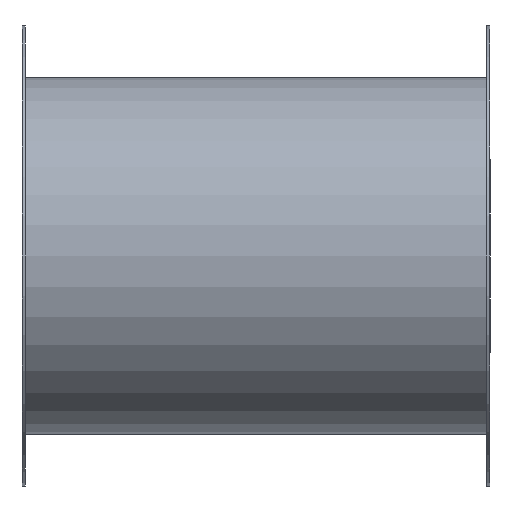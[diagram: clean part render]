
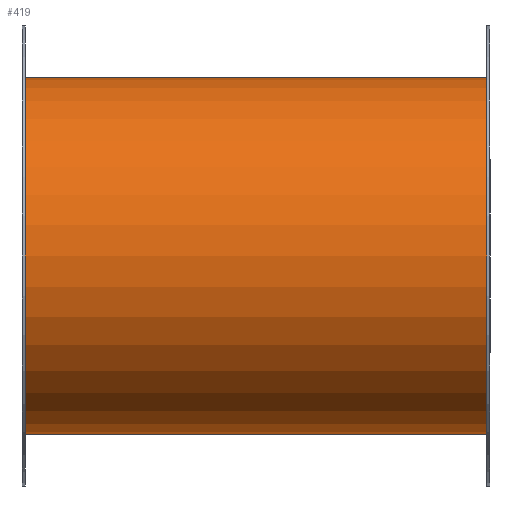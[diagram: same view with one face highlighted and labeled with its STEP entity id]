
A CAD part, left-side view. The second image highlights one B-rep face of the part: STEP entity #419.
In plain terms, the highlighted cylindrical face has radius 114.5 mm (diameter 229 mm), a full revolution.
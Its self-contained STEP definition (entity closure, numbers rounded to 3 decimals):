
#55=FACE_BOUND('',#156,.T.);
#95=FACE_OUTER_BOUND('',#155,.T.);
#155=EDGE_LOOP('',(#355));
#156=EDGE_LOOP('',(#356));
#215=CIRCLE('',#487,114.5);
#216=CIRCLE('',#489,114.5);
#255=VERTEX_POINT('',#718);
#256=VERTEX_POINT('',#721);
#295=EDGE_CURVE('',#255,#255,#215,.T.);
#296=EDGE_CURVE('',#256,#256,#216,.T.);
#355=ORIENTED_EDGE('',*,*,#296,.F.);
#356=ORIENTED_EDGE('',*,*,#295,.T.);
#397=CYLINDRICAL_SURFACE('',#488,114.5);
#419=ADVANCED_FACE('',(#95,#55),#397,.T.);
#487=AXIS2_PLACEMENT_3D('',#719,#609,#610);
#488=AXIS2_PLACEMENT_3D('',#720,#611,#612);
#489=AXIS2_PLACEMENT_3D('',#722,#613,#614);
#609=DIRECTION('center_axis',(0.,1.,0.));
#610=DIRECTION('ref_axis',(1.,0.,0.));
#611=DIRECTION('center_axis',(0.,1.,0.));
#612=DIRECTION('ref_axis',(-1.,0.,0.));
#613=DIRECTION('center_axis',(0.,1.,0.));
#614=DIRECTION('ref_axis',(1.,0.,0.));
#718=CARTESIAN_POINT('',(-114.5,2.,0.));
#719=CARTESIAN_POINT('Origin',(0.,2.,0.));
#720=CARTESIAN_POINT('Origin',(0.,150.,0.));
#721=CARTESIAN_POINT('',(-114.5,298.,0.));
#722=CARTESIAN_POINT('Origin',(0.,298.,0.));
